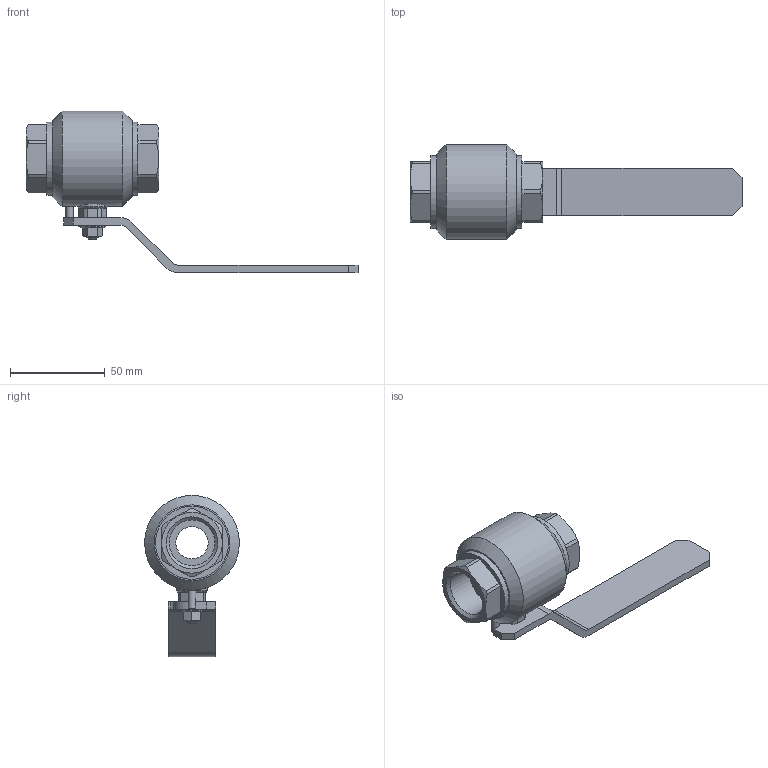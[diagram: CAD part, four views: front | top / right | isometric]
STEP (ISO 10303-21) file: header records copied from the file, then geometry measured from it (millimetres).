
FILE_DESCRIPTION(('STEP AP203'), '1');
FILE_NAME('ZARD 020.063.10.P.stp', '2013-12-05T11:20:41', ('Øèøêî'), ('Ýíåðïðåäßðäîñ'), 'ASCON STEP Converter 1.3', 'Kompas 3D', '');
FILE_SCHEMA(('CONFIG_CONTROL_DESIGN','SUPPORT_RESOURCE_SCHEMA'));
Length unit declared in the file: millimetre
Products named in the file (1): 154
Bounding box: 175 x 50 x 85 mm (x, y, z)
Volume: 89388.5 mm3; surface area: 29432.4 mm2
Topology: 1 solids, 3 shells, 175 faces, 416 edges, 256 vertices
Faces by surface type: plane 96, cylinder 46, cone 32, bspline 1
Full cylindrical faces by diameter (mm): 4 x2, 6 x2, 8.673 x1, 9 x1, 10 x1, 10.1 x1, 14.2 x1, 15.8 x1, 16 x3, 17 x2, 24.117 x2, 31.4 x1, 38.5 x2, 50 x1
Entity records: 6737 total; most frequent: CARTESIAN_POINT 2568, DIRECTION 873, ORIENTED_EDGE 830, EDGE_CURVE 415, AXIS2_PLACEMENT_3D 330, VERTEX_POINT 256, LINE 213, VECTOR 213
